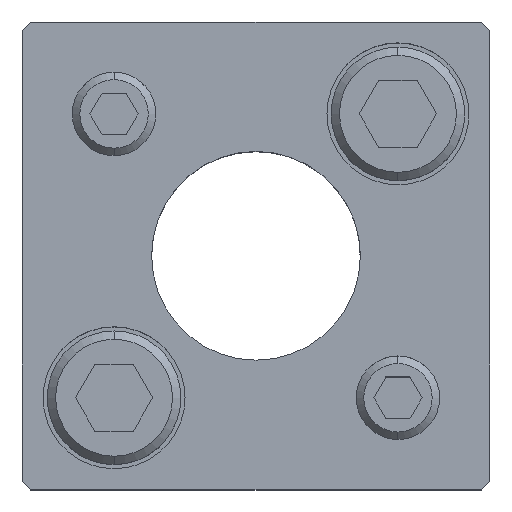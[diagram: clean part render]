
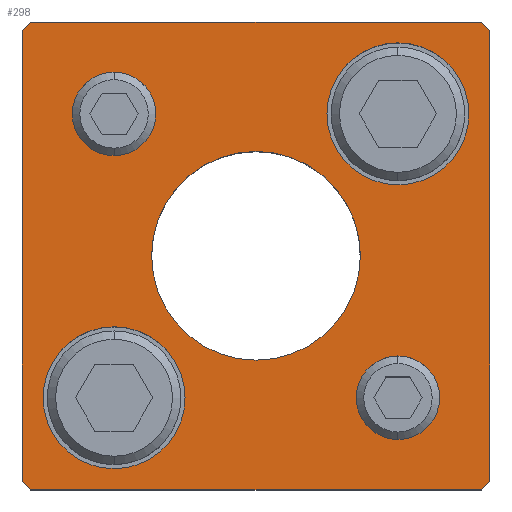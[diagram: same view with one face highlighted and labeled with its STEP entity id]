
A CAD part, top view. The second image highlights one B-rep face of the part: STEP entity #298.
In plain terms, the highlighted planar face has unit normal (0, 0, 1).
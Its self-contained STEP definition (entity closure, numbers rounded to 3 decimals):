
#155=PLANE('',#2461);
#222=FACE_BOUND('',#611,.T.);
#223=FACE_BOUND('',#612,.T.);
#224=FACE_BOUND('',#613,.T.);
#225=FACE_BOUND('',#614,.T.);
#226=FACE_BOUND('',#615,.T.);
#227=FACE_BOUND('',#616,.T.);
#298=ADVANCED_FACE('',(#222,#223,#224,#225,#226,#227),#155,.T.);
#611=EDGE_LOOP('',(#1294,#1295,#1296,#1297,#1298,#1299,#1300,#1301));
#612=EDGE_LOOP('',(#1302,#1303));
#613=EDGE_LOOP('',(#1304,#1305));
#614=EDGE_LOOP('',(#1306,#1307));
#615=EDGE_LOOP('',(#1308,#1309));
#616=EDGE_LOOP('',(#1310,#1311));
#763=LINE('',#3582,#950);
#764=LINE('',#3585,#951);
#765=LINE('',#3587,#952);
#766=LINE('',#3589,#953);
#767=LINE('',#3591,#954);
#768=LINE('',#3593,#955);
#769=LINE('',#3595,#956);
#770=LINE('',#3597,#957);
#950=VECTOR('',#2866,1.);
#951=VECTOR('',#2867,1.);
#952=VECTOR('',#2868,1.);
#953=VECTOR('',#2869,1.);
#954=VECTOR('',#2870,1.);
#955=VECTOR('',#2871,1.);
#956=VECTOR('',#2872,1.);
#957=VECTOR('',#2873,1.);
#1294=ORIENTED_EDGE('',*,*,#2028,.T.);
#1295=ORIENTED_EDGE('',*,*,#2029,.T.);
#1296=ORIENTED_EDGE('',*,*,#2030,.T.);
#1297=ORIENTED_EDGE('',*,*,#2031,.T.);
#1298=ORIENTED_EDGE('',*,*,#2032,.T.);
#1299=ORIENTED_EDGE('',*,*,#2033,.T.);
#1300=ORIENTED_EDGE('',*,*,#2034,.T.);
#1301=ORIENTED_EDGE('',*,*,#2035,.T.);
#1302=ORIENTED_EDGE('',*,*,#2036,.F.);
#1303=ORIENTED_EDGE('',*,*,#2037,.F.);
#1304=ORIENTED_EDGE('',*,*,#2038,.F.);
#1305=ORIENTED_EDGE('',*,*,#2039,.F.);
#1306=ORIENTED_EDGE('',*,*,#2014,.F.);
#1307=ORIENTED_EDGE('',*,*,#2010,.F.);
#1308=ORIENTED_EDGE('',*,*,#2008,.F.);
#1309=ORIENTED_EDGE('',*,*,#2004,.F.);
#1310=ORIENTED_EDGE('',*,*,#2040,.T.);
#1311=ORIENTED_EDGE('',*,*,#2041,.T.);
#1774=VERTEX_POINT('',#3533);
#1775=VERTEX_POINT('',#3534);
#1778=VERTEX_POINT('',#3546);
#1779=VERTEX_POINT('',#3547);
#1790=VERTEX_POINT('',#3583);
#1791=VERTEX_POINT('',#3584);
#1792=VERTEX_POINT('',#3586);
#1793=VERTEX_POINT('',#3588);
#1794=VERTEX_POINT('',#3590);
#1795=VERTEX_POINT('',#3592);
#1796=VERTEX_POINT('',#3594);
#1797=VERTEX_POINT('',#3596);
#1798=VERTEX_POINT('',#3599);
#1799=VERTEX_POINT('',#3600);
#1800=VERTEX_POINT('',#3603);
#1801=VERTEX_POINT('',#3604);
#1802=VERTEX_POINT('',#3607);
#1803=VERTEX_POINT('',#3608);
#2004=EDGE_CURVE('',#1774,#1775,#2273,.T.);
#2008=EDGE_CURVE('',#1775,#1774,#2275,.T.);
#2010=EDGE_CURVE('',#1778,#1779,#2277,.T.);
#2014=EDGE_CURVE('',#1779,#1778,#2279,.T.);
#2028=EDGE_CURVE('',#1790,#1791,#763,.T.);
#2029=EDGE_CURVE('',#1791,#1792,#764,.T.);
#2030=EDGE_CURVE('',#1792,#1793,#765,.T.);
#2031=EDGE_CURVE('',#1793,#1794,#766,.T.);
#2032=EDGE_CURVE('',#1794,#1795,#767,.T.);
#2033=EDGE_CURVE('',#1795,#1796,#768,.T.);
#2034=EDGE_CURVE('',#1796,#1797,#769,.T.);
#2035=EDGE_CURVE('',#1797,#1790,#770,.T.);
#2036=EDGE_CURVE('',#1798,#1799,#2289,.T.);
#2037=EDGE_CURVE('',#1799,#1798,#2290,.T.);
#2038=EDGE_CURVE('',#1800,#1801,#2291,.T.);
#2039=EDGE_CURVE('',#1801,#1800,#2292,.T.);
#2040=EDGE_CURVE('',#1802,#1803,#2293,.T.);
#2041=EDGE_CURVE('',#1803,#1802,#2294,.T.);
#2273=CIRCLE('',#2429,5.);
#2275=CIRCLE('',#2432,5.);
#2277=CIRCLE('',#2436,5.);
#2279=CIRCLE('',#2439,5.);
#2289=CIRCLE('',#2455,8.5);
#2290=CIRCLE('',#2456,8.5);
#2291=CIRCLE('',#2457,8.5);
#2292=CIRCLE('',#2458,8.5);
#2293=CIRCLE('',#2459,12.5);
#2294=CIRCLE('',#2460,12.5);
#2429=AXIS2_PLACEMENT_3D('',#3532,#2806,#2807);
#2432=AXIS2_PLACEMENT_3D('',#3541,#2814,#2815);
#2436=AXIS2_PLACEMENT_3D('',#3545,#2822,#2823);
#2439=AXIS2_PLACEMENT_3D('',#3554,#2830,#2831);
#2455=AXIS2_PLACEMENT_3D('',#3598,#2874,#2875);
#2456=AXIS2_PLACEMENT_3D('',#3601,#2876,#2877);
#2457=AXIS2_PLACEMENT_3D('',#3602,#2878,#2879);
#2458=AXIS2_PLACEMENT_3D('',#3605,#2880,#2881);
#2459=AXIS2_PLACEMENT_3D('',#3606,#2882,#2883);
#2460=AXIS2_PLACEMENT_3D('',#3609,#2884,#2885);
#2461=AXIS2_PLACEMENT_3D('',#3610,#2886,#2887);
#2806=DIRECTION('',(0.,0.,1.));
#2807=DIRECTION('',(-1.,0.,0.));
#2814=DIRECTION('',(0.,0.,1.));
#2815=DIRECTION('',(1.,0.,0.));
#2822=DIRECTION('',(0.,0.,1.));
#2823=DIRECTION('',(-1.,0.,0.));
#2830=DIRECTION('',(0.,0.,1.));
#2831=DIRECTION('',(1.,0.,0.));
#2866=DIRECTION('',(0.707,0.707,0.));
#2867=DIRECTION('',(0.,1.,0.));
#2868=DIRECTION('',(-0.707,0.707,0.));
#2869=DIRECTION('',(-1.,0.,0.));
#2870=DIRECTION('',(-0.707,-0.707,0.));
#2871=DIRECTION('',(0.,-1.,0.));
#2872=DIRECTION('',(0.707,-0.707,0.));
#2873=DIRECTION('',(1.,0.,0.));
#2874=DIRECTION('',(0.,0.,1.));
#2875=DIRECTION('',(1.,0.,0.));
#2876=DIRECTION('',(0.,0.,1.));
#2877=DIRECTION('',(-1.,0.,0.));
#2878=DIRECTION('',(0.,0.,1.));
#2879=DIRECTION('',(1.,0.,0.));
#2880=DIRECTION('',(0.,0.,1.));
#2881=DIRECTION('',(-1.,0.,0.));
#2882=DIRECTION('',(0.,0.,-1.));
#2883=DIRECTION('',(-1.,0.,0.));
#2884=DIRECTION('',(0.,0.,-1.));
#2885=DIRECTION('',(1.,0.,0.));
#2886=DIRECTION('',(0.,0.,1.));
#2887=DIRECTION('',(-1.,0.,0.));
#3532=CARTESIAN_POINT('',(17.,-17.,30.));
#3533=CARTESIAN_POINT('',(17.,-22.,30.));
#3534=CARTESIAN_POINT('',(17.,-12.,30.));
#3541=CARTESIAN_POINT('',(17.,-17.,30.));
#3545=CARTESIAN_POINT('',(-17.,17.,30.));
#3546=CARTESIAN_POINT('',(-17.,12.,30.));
#3547=CARTESIAN_POINT('',(-17.,22.,30.));
#3554=CARTESIAN_POINT('',(-17.,17.,30.));
#3582=CARTESIAN_POINT('',(27.,-28.,30.));
#3583=CARTESIAN_POINT('',(27.,-28.,30.));
#3584=CARTESIAN_POINT('',(28.,-27.,30.));
#3585=CARTESIAN_POINT('',(28.,27.,30.));
#3586=CARTESIAN_POINT('',(28.,27.,30.));
#3587=CARTESIAN_POINT('',(28.,27.,30.));
#3588=CARTESIAN_POINT('',(27.,28.,30.));
#3589=CARTESIAN_POINT('',(-27.,28.,30.));
#3590=CARTESIAN_POINT('',(-27.,28.,30.));
#3591=CARTESIAN_POINT('',(-27.,28.,30.));
#3592=CARTESIAN_POINT('',(-28.,27.,30.));
#3593=CARTESIAN_POINT('',(-28.,27.,30.));
#3594=CARTESIAN_POINT('',(-28.,-27.,30.));
#3595=CARTESIAN_POINT('',(-28.,-27.,30.));
#3596=CARTESIAN_POINT('',(-27.,-28.,30.));
#3597=CARTESIAN_POINT('',(-27.,-28.,30.));
#3598=CARTESIAN_POINT('',(17.,17.,30.));
#3599=CARTESIAN_POINT('',(17.,25.5,30.));
#3600=CARTESIAN_POINT('',(17.,8.5,30.));
#3601=CARTESIAN_POINT('',(17.,17.,30.));
#3602=CARTESIAN_POINT('',(-17.,-17.,30.));
#3603=CARTESIAN_POINT('',(-17.,-8.5,30.));
#3604=CARTESIAN_POINT('',(-17.,-25.5,30.));
#3605=CARTESIAN_POINT('',(-17.,-17.,30.));
#3606=CARTESIAN_POINT('',(0.,0.,30.));
#3607=CARTESIAN_POINT('',(0.,12.5,30.));
#3608=CARTESIAN_POINT('',(0.,-12.5,30.));
#3609=CARTESIAN_POINT('',(0.,0.,30.));
#3610=CARTESIAN_POINT('',(27.,-28.,30.));
